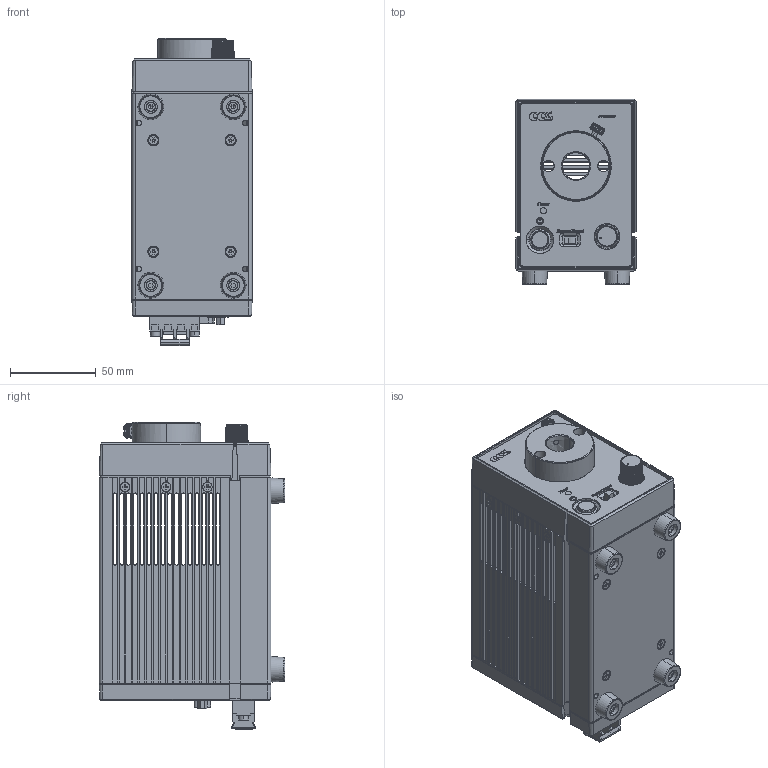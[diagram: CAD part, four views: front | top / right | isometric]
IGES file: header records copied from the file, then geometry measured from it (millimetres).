
Start section: SolidWorks IGES file using NURBS representation for surfaces
Bounding box: 70 x 108 x 178.92 mm (x, y, z)
Surface area: 137309.3 mm2 (no closed solid volume)
Topology: 0 solids, 0 shells, 1753 faces, 22705 edges, 22655 vertices
Faces by surface type: bspline 1753
